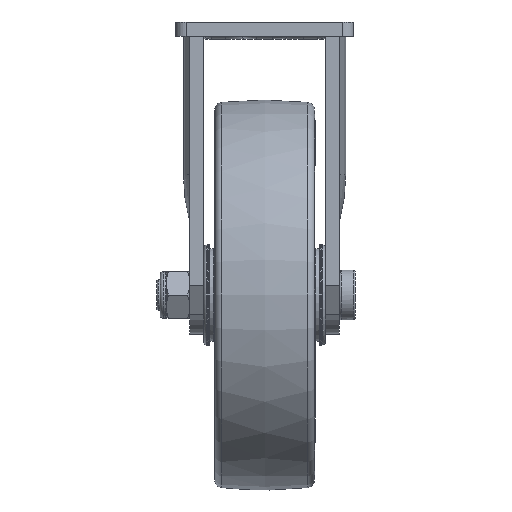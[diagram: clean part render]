
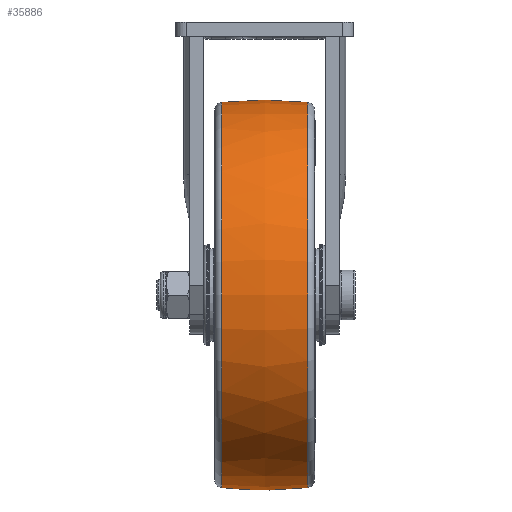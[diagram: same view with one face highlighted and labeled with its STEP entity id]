
A CAD part, left-side view. The second image highlights one B-rep face of the part: STEP entity #35886.
In plain terms, the highlighted free-form (B-spline) face has degree [2, 2] with [3, 9] control points.
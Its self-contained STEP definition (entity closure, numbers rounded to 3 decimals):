
#182=(
BOUNDED_SURFACE()
B_SPLINE_SURFACE(2,2,((#53436,#53437,#53438,#53439,#53440,#53441,#53442,
#53443,#53444),(#53445,#53446,#53447,#53448,#53449,#53450,#53451,#53452,
#53453),(#53454,#53455,#53456,#53457,#53458,#53459,#53460,#53461,#53462)),
 .UNSPECIFIED.,.F.,.T.,.F.)
B_SPLINE_SURFACE_WITH_KNOTS((3,3),(3,2,2,2,3),(-0.11,0.11),
(-3.142,-1.571,0.,1.571,3.142),
 .UNSPECIFIED.)
GEOMETRIC_REPRESENTATION_ITEM()
RATIONAL_B_SPLINE_SURFACE(((1.,0.707,1.,0.707,1.,
0.707,1.,0.707,1.),(0.994,0.703,
0.994,0.703,0.994,0.703,
0.994,0.703,0.994),(1.,0.707,
1.,0.707,1.,0.707,1.,0.707,1.)))
REPRESENTATION_ITEM('')
SURFACE()
);
#576=(
BOUNDED_CURVE()
B_SPLINE_CURVE(2,(#53467,#53468,#53469),.UNSPECIFIED.,.F.,.F.)
B_SPLINE_CURVE_WITH_KNOTS((3,3),(-0.11,0.11),
 .UNSPECIFIED.)
CURVE()
GEOMETRIC_REPRESENTATION_ITEM()
RATIONAL_B_SPLINE_CURVE((1.,0.994,1.))
REPRESENTATION_ITEM('')
);
#3893=FACE_OUTER_BOUND('',#6039,.T.);
#6039=EDGE_LOOP('',(#25711,#25712,#25713,#25714,#25715,#25716));
#7854=CIRCLE('',#38061,12.348);
#7855=CIRCLE('',#38062,12.348);
#7857=CIRCLE('',#38064,12.348);
#7858=CIRCLE('',#38065,12.348);
#14991=VERTEX_POINT('',#53430);
#14992=VERTEX_POINT('',#53431);
#14994=VERTEX_POINT('',#53463);
#14995=VERTEX_POINT('',#53464);
#18957=EDGE_CURVE('',#14991,#14992,#7854,.T.);
#18958=EDGE_CURVE('',#14992,#14991,#7855,.T.);
#18960=EDGE_CURVE('',#14994,#14995,#7857,.T.);
#18961=EDGE_CURVE('',#14995,#14994,#7858,.T.);
#18962=EDGE_CURVE('',#14995,#14992,#576,.T.);
#25711=ORIENTED_EDGE('',*,*,#18960,.F.);
#25712=ORIENTED_EDGE('',*,*,#18961,.F.);
#25713=ORIENTED_EDGE('',*,*,#18962,.T.);
#25714=ORIENTED_EDGE('',*,*,#18958,.T.);
#25715=ORIENTED_EDGE('',*,*,#18957,.T.);
#25716=ORIENTED_EDGE('',*,*,#18962,.F.);
#35886=ADVANCED_FACE('',(#3893),#182,.F.);
#38061=AXIS2_PLACEMENT_3D('',#53432,#42432,#42433);
#38062=AXIS2_PLACEMENT_3D('',#53433,#42434,#42435);
#38064=AXIS2_PLACEMENT_3D('',#53465,#42438,#42439);
#38065=AXIS2_PLACEMENT_3D('',#53466,#42440,#42441);
#42432=DIRECTION('center_axis',(0.,-1.,0.));
#42433=DIRECTION('ref_axis',(0.,0.,
1.));
#42434=DIRECTION('center_axis',(0.,-1.,0.));
#42435=DIRECTION('ref_axis',(0.,0.,
1.));
#42438=DIRECTION('center_axis',(0.,-1.,0.));
#42439=DIRECTION('ref_axis',(0.,0.,
1.));
#42440=DIRECTION('center_axis',(0.,-1.,0.));
#42441=DIRECTION('ref_axis',(0.,0.,
1.));
#53430=CARTESIAN_POINT('',(-12.348,2.755,-17.05));
#53431=CARTESIAN_POINT('',(0.,2.755,-29.398));
#53432=CARTESIAN_POINT('Origin',(0.,2.755,-17.05));
#53433=CARTESIAN_POINT('Origin',(0.,2.755,-17.05));
#53436=CARTESIAN_POINT('Ctrl Pts',(0.,2.755,
-29.398));
#53437=CARTESIAN_POINT('Ctrl Pts',(12.348,2.755,-29.398));
#53438=CARTESIAN_POINT('Ctrl Pts',(12.348,2.755,-17.05));
#53439=CARTESIAN_POINT('Ctrl Pts',(12.348,2.755,-4.702));
#53440=CARTESIAN_POINT('Ctrl Pts',(0.,2.755,
-4.702));
#53441=CARTESIAN_POINT('Ctrl Pts',(-12.348,2.755,-4.702));
#53442=CARTESIAN_POINT('Ctrl Pts',(-12.348,2.755,-17.05));
#53443=CARTESIAN_POINT('Ctrl Pts',(-12.348,2.755,-29.398));
#53444=CARTESIAN_POINT('Ctrl Pts',(0.,2.755,
-29.398));
#53445=CARTESIAN_POINT('Ctrl Pts',(0.,0.,
-29.703));
#53446=CARTESIAN_POINT('Ctrl Pts',(12.653,0.,
-29.703));
#53447=CARTESIAN_POINT('Ctrl Pts',(12.653,0.,
-17.05));
#53448=CARTESIAN_POINT('Ctrl Pts',(12.653,0.,
-4.397));
#53449=CARTESIAN_POINT('Ctrl Pts',(0.,0.,
-4.397));
#53450=CARTESIAN_POINT('Ctrl Pts',(-12.653,0.,
-4.397));
#53451=CARTESIAN_POINT('Ctrl Pts',(-12.653,0.,
-17.05));
#53452=CARTESIAN_POINT('Ctrl Pts',(-12.653,0.,
-29.703));
#53453=CARTESIAN_POINT('Ctrl Pts',(0.,0.,
-29.703));
#53454=CARTESIAN_POINT('Ctrl Pts',(0.,-2.755,
-29.398));
#53455=CARTESIAN_POINT('Ctrl Pts',(12.348,-2.755,-29.398));
#53456=CARTESIAN_POINT('Ctrl Pts',(12.348,-2.755,-17.05));
#53457=CARTESIAN_POINT('Ctrl Pts',(12.348,-2.755,-4.702));
#53458=CARTESIAN_POINT('Ctrl Pts',(0.,-2.755,
-4.702));
#53459=CARTESIAN_POINT('Ctrl Pts',(-12.348,-2.755,-4.702));
#53460=CARTESIAN_POINT('Ctrl Pts',(-12.348,-2.755,-17.05));
#53461=CARTESIAN_POINT('Ctrl Pts',(-12.348,-2.755,-29.398));
#53462=CARTESIAN_POINT('Ctrl Pts',(0.,-2.755,
-29.398));
#53463=CARTESIAN_POINT('',(-12.348,-2.755,-17.05));
#53464=CARTESIAN_POINT('',(0.,-2.755,-29.398));
#53465=CARTESIAN_POINT('Origin',(0.,-2.755,
-17.05));
#53466=CARTESIAN_POINT('Origin',(0.,-2.755,
-17.05));
#53467=CARTESIAN_POINT('Ctrl Pts',(0.,-2.755,
-29.398));
#53468=CARTESIAN_POINT('Ctrl Pts',(0.,0.,
-29.703));
#53469=CARTESIAN_POINT('Ctrl Pts',(0.,2.755,
-29.398));
